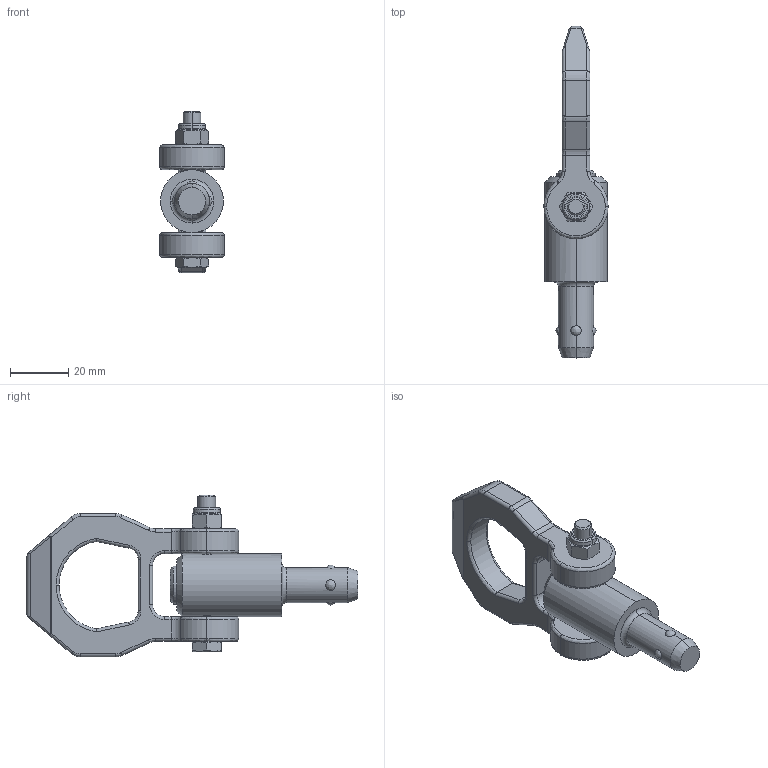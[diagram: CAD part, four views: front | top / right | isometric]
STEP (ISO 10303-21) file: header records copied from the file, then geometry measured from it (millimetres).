
FILE_DESCRIPTION (( 'STEP AP214' ), '1' );
FILE_NAME ('1130-12-15-NI.step', '2023-05-11T09:32:24', ( '' ), ( '' ), 'SwSTEP 2.0', 'SolidWorks 2022', '' );
FILE_SCHEMA (( 'AUTOMOTIVE_DESIGN' ));
Length unit declared in the file: millimetre
Products named in the file (3): Kopie von ring2^WB1130_NI; 1130-12-15-NI; Kopie von bolzen1^WB1130_NI_12-15-NI
Assembly tree (2 placements, depth 2):
  1130-12-15-NI
    Kopie von bolzen1^WB1130_NI_12-15-NI
    Kopie von ring2^WB1130_NI
Bounding box: 22 x 113.5 x 55.25 mm (x, y, z)
Volume: 34997.1 mm3; surface area: 12366.2 mm2
Topology: 2 solids, 2 shells, 244 faces, 607 edges, 375 vertices
Faces by surface type: plane 83, cylinder 77, bspline 52, cone 26, torus 6
Entity records: 9664 total; most frequent: CARTESIAN_POINT 4348, ORIENTED_EDGE 1214, DIRECTION 895, EDGE_CURVE 607, VERTEX_POINT 375, AXIS2_PLACEMENT_3D 333, EDGE_LOOP 258, ADVANCED_FACE 244
